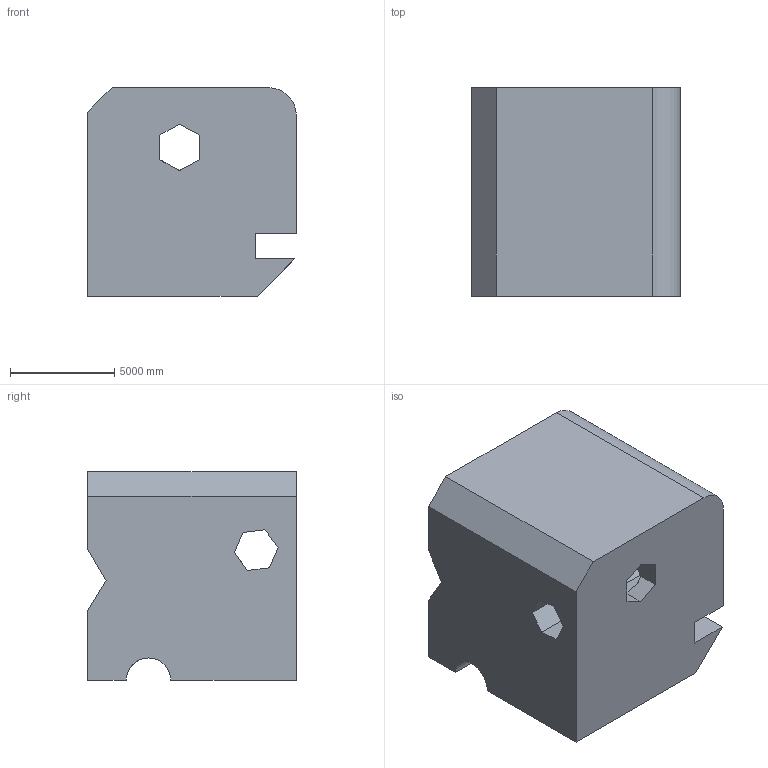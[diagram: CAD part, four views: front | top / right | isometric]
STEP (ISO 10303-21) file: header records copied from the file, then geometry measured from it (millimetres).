
FILE_DESCRIPTION (( 'STEP AP203' ), '1' );
FILE_NAME ('808.STEP', '2022-07-29T13:21:50', ( 'user' ), ( '' ), 'SwSTEP 2.0', 'SolidWorks 2021', '' );
FILE_SCHEMA (( 'CONFIG_CONTROL_DESIGN' ));
Length unit declared in the file: centimetre
Products named in the file (1): 808
Bounding box: 10000 x 10000 x 10000 mm (x, y, z)
Volume: 859050483607.2 mm3; surface area: 718961796 mm2
Topology: 1 solids, 1 shells, 40 faces, 123 edges, 82 vertices
Faces by surface type: plane 37, cylinder 3
Entity records: 1440 total; most frequent: CARTESIAN_POINT 252, ORIENTED_EDGE 246, DIRECTION 207, EDGE_CURVE 123, VECTOR 117, LINE 117, VERTEX_POINT 82, AXIS2_PLACEMENT_3D 45
